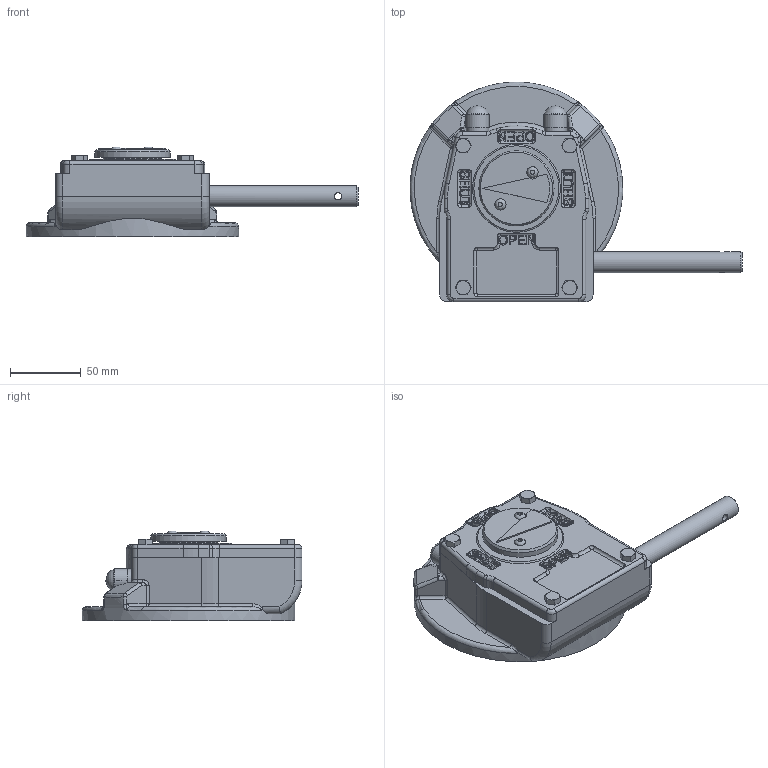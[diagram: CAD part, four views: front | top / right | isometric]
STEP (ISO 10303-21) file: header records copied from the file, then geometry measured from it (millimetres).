
FILE_DESCRIPTION( ( 'Unknown' ), '1' );
FILE_NAME( 'M:/Current Drawings/Internet datasheets/4 - STEP/AB215N LB LH.stp', 'Unknown', ( 'Unknown' ), ( 'Unknown' ), 'PSStep 15.0.49', 'Unknown', ' ' );
FILE_SCHEMA( ( 'AUTOMOTIVE_DESIGN { 1 0 10303 214 1 1 1 1 }' ) );
Length unit declared in the file: millimetre
Products named in the file (1): 21A0Z10000002
Bounding box: 234 x 155 x 63.3 mm (x, y, z)
Volume: 585784.3 mm3; surface area: 143969.1 mm2
Topology: 1 solids, 32 shells, 1670 faces, 4305 edges, 2701 vertices
Faces by surface type: plane 669, cylinder 447, cone 233, bspline 162, torus 124, sphere 19, extrusion 16
Full cylindrical faces by diameter (mm): 3.242 x4, 4 x2, 4.5 x2, 4.917 x10, 5.1 x1, 6 x4, 7 x4, 7.6 x2, 8 x1, 10.4 x1, 15 x2, 16 x2, 16.5 x2, 18 x2, 19 x1, 21 x2, 39.6 x2, 41.35 x2, 42.35 x2, 42.5 x2, 46 x1, 47 x1, 50 x1, 53 x1, 150 x1
Entity records: 108042 total; most frequent: CARTESIAN_POINT 56947, ORIENTED_EDGE 8234, DIRECTION 7296, EDGE_CURVE 4117, AXIS2_PLACEMENT_3D 2932, VERTEX_POINT 2649, EDGE_LOOP 1826, FACE_OUTER_BOUND 1734
